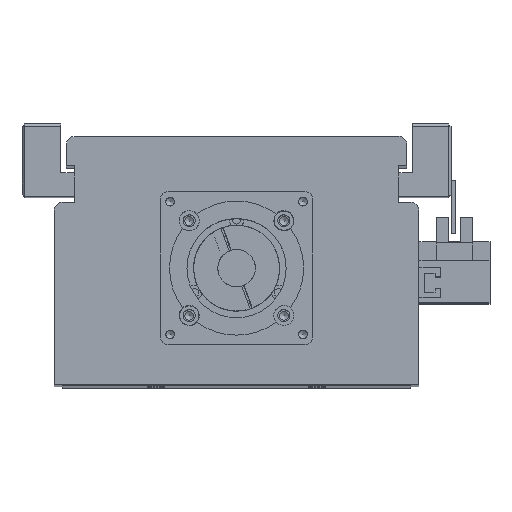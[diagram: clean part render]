
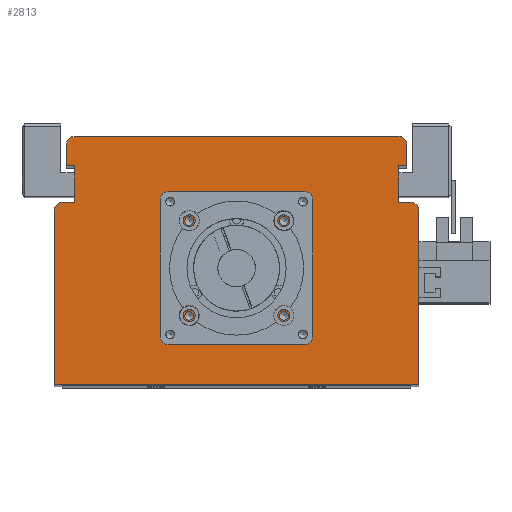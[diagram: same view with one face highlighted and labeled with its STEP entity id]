
A CAD part, top view. The second image highlights one B-rep face of the part: STEP entity #2813.
In plain terms, the highlighted planar face has unit normal (0, 0, 1).
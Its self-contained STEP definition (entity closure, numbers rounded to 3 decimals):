
#1371=CARTESIAN_POINT('',(19.321,61.5,495.));
#1372=VERTEX_POINT('',#1371);
#1373=CARTESIAN_POINT('',(17.7,61.5,495.));
#1374=DIRECTION('',(0.0,0.0,-1.0));
#1375=DIRECTION('',(1.0,0.0,0.0));
#1376=AXIS2_PLACEMENT_3D('',#1373,#1374,#1375);
#1377=CIRCLE('',#1376,1.621);
#1378=EDGE_CURVE('',#1372,#1372,#1377,.T.);
#1450=CARTESIAN_POINT('',(19.321,26.1,495.));
#1451=VERTEX_POINT('',#1450);
#1452=CARTESIAN_POINT('',(17.7,26.1,495.));
#1453=DIRECTION('',(0.0,0.0,-1.0));
#1454=DIRECTION('',(1.0,0.0,0.0));
#1455=AXIS2_PLACEMENT_3D('',#1452,#1453,#1454);
#1456=CIRCLE('',#1455,1.621);
#1457=EDGE_CURVE('',#1451,#1451,#1456,.T.);
#1529=CARTESIAN_POINT('',(-16.079,26.1,495.));
#1530=VERTEX_POINT('',#1529);
#1531=CARTESIAN_POINT('',(-17.7,26.1,495.));
#1532=DIRECTION('',(0.0,0.0,-1.0));
#1533=DIRECTION('',(1.0,0.0,0.0));
#1534=AXIS2_PLACEMENT_3D('',#1531,#1532,#1533);
#1535=CIRCLE('',#1534,1.621);
#1536=EDGE_CURVE('',#1530,#1530,#1535,.T.);
#1608=CARTESIAN_POINT('',(-16.079,61.5,495.));
#1609=VERTEX_POINT('',#1608);
#1610=CARTESIAN_POINT('',(-17.7,61.5,495.));
#1611=DIRECTION('',(0.0,0.0,-1.0));
#1612=DIRECTION('',(1.0,0.0,0.0));
#1613=AXIS2_PLACEMENT_3D('',#1610,#1611,#1612);
#1614=CIRCLE('',#1613,1.621);
#1615=EDGE_CURVE('',#1609,#1609,#1614,.T.);
#1649=CARTESIAN_POINT('',(26.5,43.8,495.));
#1650=VERTEX_POINT('',#1649);
#1651=CARTESIAN_POINT('',(24.5,43.8,495.));
#1652=DIRECTION('',(0.0,0.0,-1.0));
#1653=DIRECTION('',(1.0,0.0,0.0));
#1654=AXIS2_PLACEMENT_3D('',#1651,#1652,#1653);
#1655=CIRCLE('',#1654,2.0);
#1656=EDGE_CURVE('',#1650,#1650,#1655,.T.);
#1698=CARTESIAN_POINT('',(-22.5,43.8,495.));
#1699=VERTEX_POINT('',#1698);
#1700=CARTESIAN_POINT('',(-24.5,43.8,495.));
#1701=DIRECTION('',(0.0,0.0,-1.0));
#1702=DIRECTION('',(1.0,0.0,0.0));
#1703=AXIS2_PLACEMENT_3D('',#1700,#1701,#1702);
#1704=CIRCLE('',#1703,2.0);
#1705=EDGE_CURVE('',#1699,#1699,#1704,.T.);
#2629=CARTESIAN_POINT('',(21.05,43.8,495.));
#2630=VERTEX_POINT('',#2629);
#2631=CARTESIAN_POINT('',(0.0,43.8,495.));
#2632=DIRECTION('',(0.0,0.0,-1.0));
#2633=DIRECTION('',(-1.0,0.0,0.0));
#2634=AXIS2_PLACEMENT_3D('',#2631,#2632,#2633);
#2635=CIRCLE('',#2634,21.05);
#2636=EDGE_CURVE('',#2630,#2630,#2635,.T.);
#2653=CARTESIAN_POINT('',(0.,29.533,495.));
#2654=DIRECTION('',(0.0,0.0,1.0));
#2655=DIRECTION('',(1.0,0.0,0.0));
#2656=AXIS2_PLACEMENT_3D('',#2653,#2654,#2655);
#2657=PLANE('',#2656);
#2658=CARTESIAN_POINT('',(-65.,68.5,495.));
#2659=VERTEX_POINT('',#2658);
#2660=CARTESIAN_POINT('',(-60.5,68.5,495.0));
#2661=VERTEX_POINT('',#2660);
#2662=CARTESIAN_POINT('',(-65.,68.5,495.));
#2663=DIRECTION('',(1.0,0.0,0.0));
#2664=VECTOR('',#2663,4.5);
#2665=LINE('',#2662,#2664);
#2666=EDGE_CURVE('',#2659,#2661,#2665,.T.);
#2667=ORIENTED_EDGE('',*,*,#2666,.F.);
#2668=CARTESIAN_POINT('',(-68.,65.5,495.));
#2669=VERTEX_POINT('',#2668);
#2670=CARTESIAN_POINT('',(-65.,65.5,495.0));
#2671=DIRECTION('',(0.0,0.0,-1.0));
#2672=DIRECTION('',(0.0,1.0,0.0));
#2673=AXIS2_PLACEMENT_3D('',#2670,#2671,#2672);
#2674=CIRCLE('',#2673,3.);
#2675=EDGE_CURVE('',#2669,#2659,#2674,.T.);
#2676=ORIENTED_EDGE('',*,*,#2675,.F.);
#2677=CARTESIAN_POINT('',(-68.0,0.5,495.));
#2678=VERTEX_POINT('',#2677);
#2679=CARTESIAN_POINT('',(-68.0,0.5,495.));
#2680=DIRECTION('',(0.0,1.0,0.0));
#2681=VECTOR('',#2680,65.0);
#2682=LINE('',#2679,#2681);
#2683=EDGE_CURVE('',#2678,#2669,#2682,.T.);
#2684=ORIENTED_EDGE('',*,*,#2683,.F.);
#2685=CARTESIAN_POINT('',(68.0,0.5,495.));
#2686=VERTEX_POINT('',#2685);
#2687=CARTESIAN_POINT('',(68.0,0.5,495.));
#2688=DIRECTION('',(-1.0,0.0,0.0));
#2689=VECTOR('',#2688,136.0);
#2690=LINE('',#2687,#2689);
#2691=EDGE_CURVE('',#2686,#2678,#2690,.T.);
#2692=ORIENTED_EDGE('',*,*,#2691,.F.);
#2693=CARTESIAN_POINT('',(68.0,65.5,495.));
#2694=VERTEX_POINT('',#2693);
#2695=CARTESIAN_POINT('',(68.0,65.5,495.));
#2696=DIRECTION('',(0.0,-1.0,0.0));
#2697=VECTOR('',#2696,65.0);
#2698=LINE('',#2695,#2697);
#2699=EDGE_CURVE('',#2694,#2686,#2698,.T.);
#2700=ORIENTED_EDGE('',*,*,#2699,.F.);
#2701=CARTESIAN_POINT('',(65.,68.5,495.));
#2702=VERTEX_POINT('',#2701);
#2703=CARTESIAN_POINT('',(65.,65.5,495.0));
#2704=DIRECTION('',(0.0,0.0,-1.0));
#2705=DIRECTION('',(1.0,0.0,0.0));
#2706=AXIS2_PLACEMENT_3D('',#2703,#2704,#2705);
#2707=CIRCLE('',#2706,3.);
#2708=EDGE_CURVE('',#2702,#2694,#2707,.T.);
#2709=ORIENTED_EDGE('',*,*,#2708,.F.);
#2710=CARTESIAN_POINT('',(60.5,68.5,495.0));
#2711=VERTEX_POINT('',#2710);
#2712=CARTESIAN_POINT('',(60.5,68.5,495.0));
#2713=DIRECTION('',(1.0,0.0,0.0));
#2714=VECTOR('',#2713,4.5);
#2715=LINE('',#2712,#2714);
#2716=EDGE_CURVE('',#2711,#2702,#2715,.T.);
#2717=ORIENTED_EDGE('',*,*,#2716,.F.);
#2718=CARTESIAN_POINT('',(60.5,82.,495.0));
#2719=VERTEX_POINT('',#2718);
#2720=CARTESIAN_POINT('',(60.5,82.,495.0));
#2721=DIRECTION('',(0.0,-1.0,0.0));
#2722=VECTOR('',#2721,13.5);
#2723=LINE('',#2720,#2722);
#2724=EDGE_CURVE('',#2719,#2711,#2723,.T.);
#2725=ORIENTED_EDGE('',*,*,#2724,.F.);
#2726=CARTESIAN_POINT('',(63.5,82.,495.0));
#2727=VERTEX_POINT('',#2726);
#2728=CARTESIAN_POINT('',(63.5,82.,495.0));
#2729=DIRECTION('',(-1.0,0.0,0.0));
#2730=VECTOR('',#2729,3.0);
#2731=LINE('',#2728,#2730);
#2732=EDGE_CURVE('',#2727,#2719,#2731,.T.);
#2733=ORIENTED_EDGE('',*,*,#2732,.F.);
#2734=CARTESIAN_POINT('',(63.5,90.0,495.0));
#2735=VERTEX_POINT('',#2734);
#2736=CARTESIAN_POINT('',(63.5,90.0,495.0));
#2737=DIRECTION('',(0.0,-1.0,0.0));
#2738=VECTOR('',#2737,8.);
#2739=LINE('',#2736,#2738);
#2740=EDGE_CURVE('',#2735,#2727,#2739,.T.);
#2741=ORIENTED_EDGE('',*,*,#2740,.F.);
#2742=CARTESIAN_POINT('',(60.5,93.,495.0));
#2743=VERTEX_POINT('',#2742);
#2744=CARTESIAN_POINT('',(60.5,90.0,495.0));
#2745=DIRECTION('',(0.0,0.0,-1.0));
#2746=DIRECTION('',(1.0,0.0,0.0));
#2747=AXIS2_PLACEMENT_3D('',#2744,#2745,#2746);
#2748=CIRCLE('',#2747,3.);
#2749=EDGE_CURVE('',#2743,#2735,#2748,.T.);
#2750=ORIENTED_EDGE('',*,*,#2749,.F.);
#2751=CARTESIAN_POINT('',(-60.5,93.0,495.0));
#2752=VERTEX_POINT('',#2751);
#2753=CARTESIAN_POINT('',(-60.5,93.0,495.0));
#2754=DIRECTION('',(1.0,0.0,0.0));
#2755=VECTOR('',#2754,121.0);
#2756=LINE('',#2753,#2755);
#2757=EDGE_CURVE('',#2752,#2743,#2756,.T.);
#2758=ORIENTED_EDGE('',*,*,#2757,.F.);
#2759=CARTESIAN_POINT('',(-63.5,90.0,495.0));
#2760=VERTEX_POINT('',#2759);
#2761=CARTESIAN_POINT('',(-60.5,90.0,495.0));
#2762=DIRECTION('',(0.0,0.0,-1.0));
#2763=DIRECTION('',(0.0,1.0,0.0));
#2764=AXIS2_PLACEMENT_3D('',#2761,#2762,#2763);
#2765=CIRCLE('',#2764,3.);
#2766=EDGE_CURVE('',#2760,#2752,#2765,.T.);
#2767=ORIENTED_EDGE('',*,*,#2766,.F.);
#2768=CARTESIAN_POINT('',(-63.5,82.,495.0));
#2769=VERTEX_POINT('',#2768);
#2770=CARTESIAN_POINT('',(-63.5,82.,495.0));
#2771=DIRECTION('',(0.0,1.0,0.0));
#2772=VECTOR('',#2771,8.);
#2773=LINE('',#2770,#2772);
#2774=EDGE_CURVE('',#2769,#2760,#2773,.T.);
#2775=ORIENTED_EDGE('',*,*,#2774,.F.);
#2776=CARTESIAN_POINT('',(-60.5,82.,495.0));
#2777=VERTEX_POINT('',#2776);
#2778=CARTESIAN_POINT('',(-60.5,82.,495.0));
#2779=DIRECTION('',(-1.0,0.0,0.0));
#2780=VECTOR('',#2779,3.);
#2781=LINE('',#2778,#2780);
#2782=EDGE_CURVE('',#2777,#2769,#2781,.T.);
#2783=ORIENTED_EDGE('',*,*,#2782,.F.);
#2784=CARTESIAN_POINT('',(-60.5,68.5,495.0));
#2785=DIRECTION('',(0.0,1.0,0.0));
#2786=VECTOR('',#2785,13.5);
#2787=LINE('',#2784,#2786);
#2788=EDGE_CURVE('',#2661,#2777,#2787,.T.);
#2789=ORIENTED_EDGE('',*,*,#2788,.F.);
#2790=EDGE_LOOP('',(#2667,#2676,#2684,#2692,#2700,#2709,#2717,#2725,#2733,#2741,#2750,#2758,#2767,#2775,#2783,#2789));
#2791=FACE_OUTER_BOUND('',#2790,.T.);
#2792=ORIENTED_EDGE('',*,*,#1378,.T.);
#2793=EDGE_LOOP('',(#2792));
#2794=FACE_BOUND('',#2793,.T.);
#2795=ORIENTED_EDGE('',*,*,#1457,.T.);
#2796=EDGE_LOOP('',(#2795));
#2797=FACE_BOUND('',#2796,.T.);
#2798=ORIENTED_EDGE('',*,*,#1536,.T.);
#2799=EDGE_LOOP('',(#2798));
#2800=FACE_BOUND('',#2799,.T.);
#2801=ORIENTED_EDGE('',*,*,#1615,.T.);
#2802=EDGE_LOOP('',(#2801));
#2803=FACE_BOUND('',#2802,.T.);
#2804=ORIENTED_EDGE('',*,*,#1656,.T.);
#2805=EDGE_LOOP('',(#2804));
#2806=FACE_BOUND('',#2805,.T.);
#2807=ORIENTED_EDGE('',*,*,#1705,.T.);
#2808=EDGE_LOOP('',(#2807));
#2809=FACE_BOUND('',#2808,.T.);
#2810=ORIENTED_EDGE('',*,*,#2636,.T.);
#2811=EDGE_LOOP('',(#2810));
#2812=FACE_BOUND('',#2811,.T.);
#2813=ADVANCED_FACE('',(#2791,#2794,#2797,#2800,#2803,#2806,#2809,#2812),#2657,.T.);
